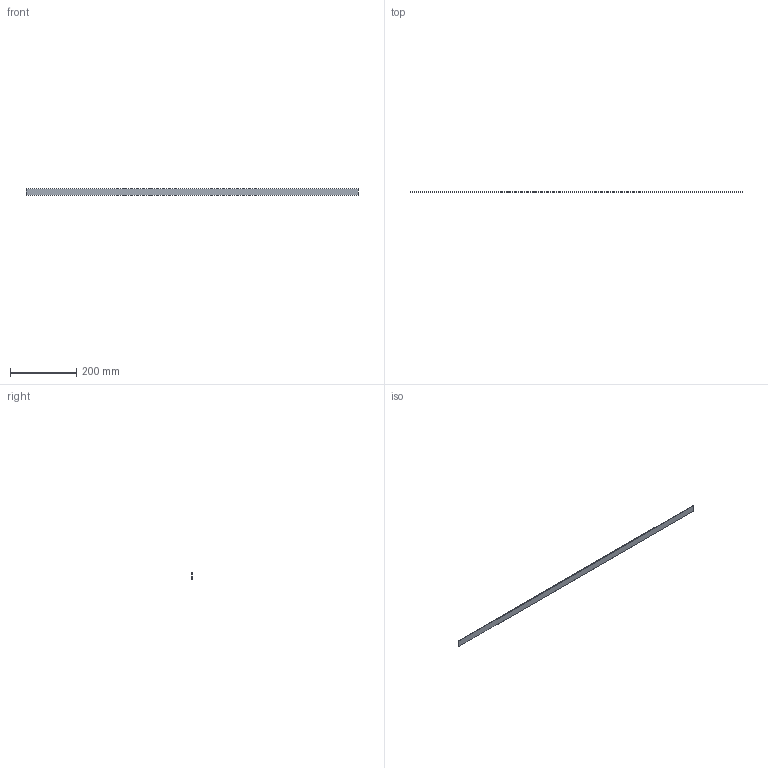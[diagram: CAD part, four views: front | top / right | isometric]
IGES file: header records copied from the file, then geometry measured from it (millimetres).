
Start section: SolidWorks IGES file using analytic representation for surfaces
Bounding box: 1000 x 2.2 x 20 mm (x, y, z)
Surface area: 84488 mm2 (no closed solid volume)
Topology: 0 solids, 0 shells, 12 faces, 48 edges, 48 vertices
Faces by surface type: bspline 12
